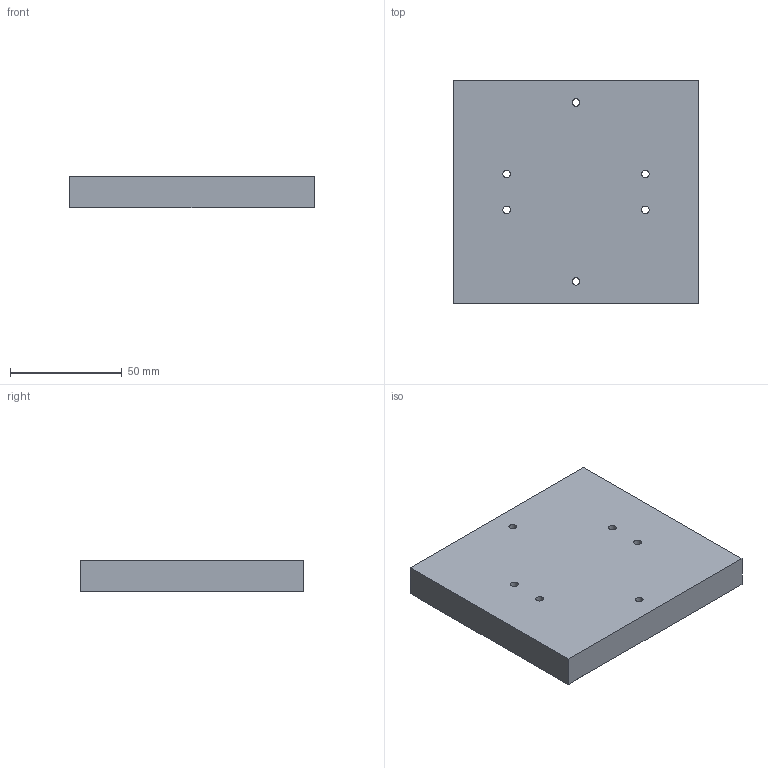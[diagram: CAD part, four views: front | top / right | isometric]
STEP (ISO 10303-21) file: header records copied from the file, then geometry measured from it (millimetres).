
FILE_DESCRIPTION(('FreeCAD Model'),'2;1');
FILE_NAME('Open CASCADE Shape Model','2026-11-07T16:11:56',('FreeCAD'),( 'FreeCAD'),'Open CASCADE STEP processor 7.8','FreeCAD','Unknown');
FILE_SCHEMA(('AUTOMOTIVE_DESIGN { 1 0 10303 214 1 1 1 1 }'));
Length unit declared in the file: millimetre
Products named in the file (1): Open CASCADE STEP translator 7.8 1
Bounding box: 110 x 100 x 14 mm (x, y, z)
Volume: 79248.1 mm3; surface area: 34398.1 mm2
Topology: 1 solids, 1 shells, 86 faces, 204 edges, 128 vertices
Faces by surface type: plane 66, cylinder 20
Full cylindrical faces by diameter (mm): 3.4 x6, 12 x8
Entity records: 2490 total; most frequent: DIRECTION 438, CARTESIAN_POINT 419, ORIENTED_EDGE 408, EDGE_CURVE 204, AXIS2_PLACEMENT_3D 147, LINE 144, VECTOR 144, VERTEX_POINT 128
